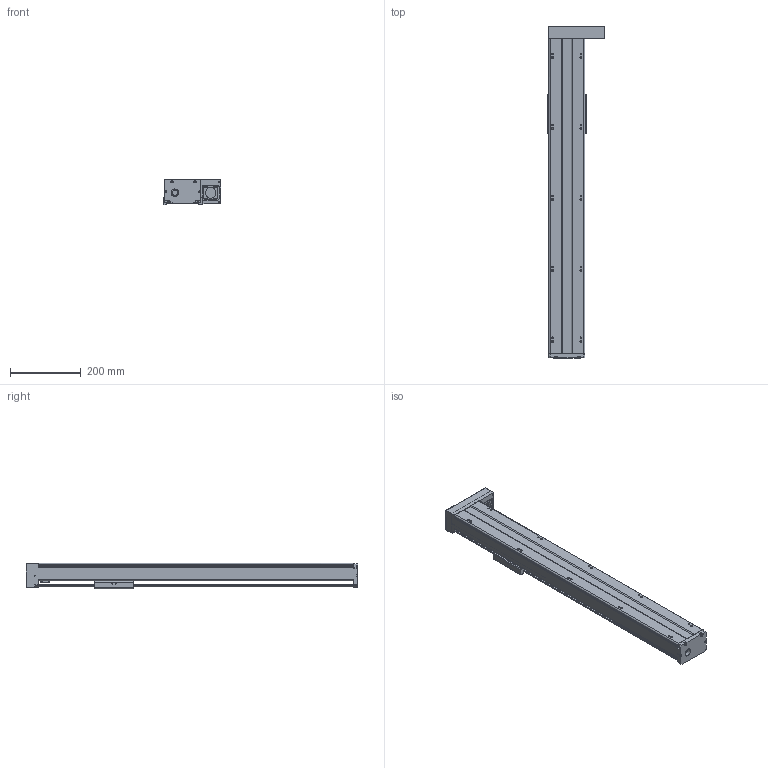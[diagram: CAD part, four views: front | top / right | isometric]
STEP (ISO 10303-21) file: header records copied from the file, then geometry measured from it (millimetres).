
FILE_DESCRIPTION(/* description */ (''),/* implementation_level */ '2;1');
FILE_NAME(/* name */ 'TKA100-FR-700_asm1.stp',/* time_stamp */ '2016-05-17T15:44:02+08:00',/* author */ (''),/* organization */ (''),/* preprocessor_version */ 'ST-DEVELOPER v15',/* originating_system */ 'SIEMENS PLM Software NX 8.5',/* authorisation */ '');
FILE_SCHEMA (('AUTOMOTIVE_DESIGN { 1 0 10303 214 3 1 1 1 }'));
Length unit declared in the file: millimetre
Products named in the file (3): 200-2; 200-1; TKA100-FR-700_asm1
Assembly tree (2 placements, depth 2):
  TKA100-FR-700_asm1
    200-1
    200-2
Bounding box: 162 x 936 x 71 mm (x, y, z)
Volume: 2011503 mm3; surface area: 685975.9 mm2
Topology: 2 solids, 16 shells, 798 faces, 2074 edges, 1353 vertices
Faces by surface type: plane 322, cylinder 301, cone 121, torus 28, bspline 26
Full cylindrical faces by diameter (mm): 2.5 x6, 2.6 x8, 3.3 x11, 3.4 x4, 3.8 x8, 4.2 x19, 4.3 x4, 4.5 x6, 5 x2, 5.5 x18, 6.6 x4, 8 x4, 9 x6, 10 x11, 11 x4, 12 x6, 15.3 x1, 16 x1, 22 x1, 24 x1, 28 x2, 30 x1, 33 x1
Entity records: 29066 total; most frequent: CARTESIAN_POINT 10602, DIRECTION 3787, ORIENTED_EDGE 3584, EDGE_CURVE 1792, AXIS2_PLACEMENT_3D 1495, VERTEX_POINT 1270, EDGE_LOOP 1097, ADVANCED_FACE 798
